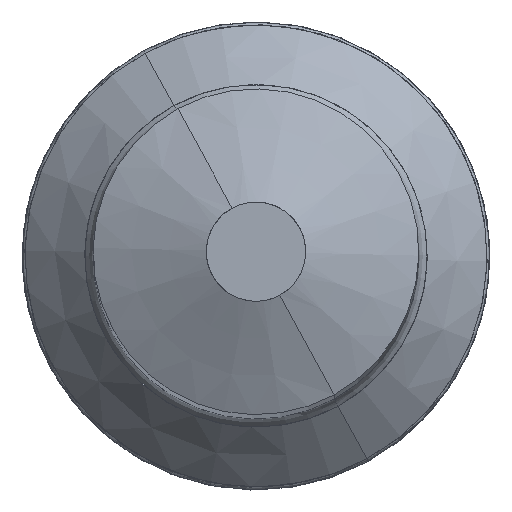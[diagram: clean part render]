
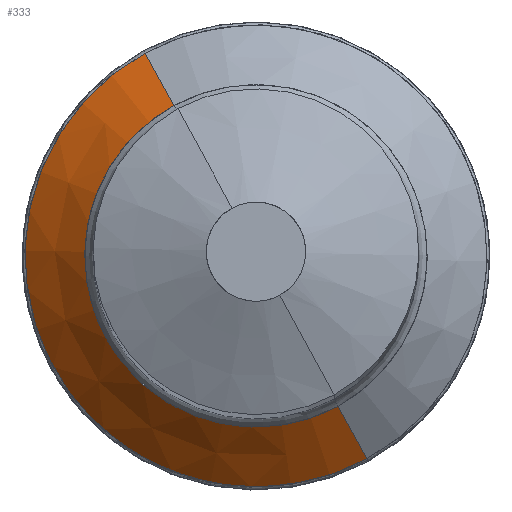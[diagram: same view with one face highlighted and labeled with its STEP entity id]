
A CAD part, top view. The second image highlights one B-rep face of the part: STEP entity #333.
In plain terms, the highlighted conical face has half-angle 45 degrees and reference radius 0 mm.
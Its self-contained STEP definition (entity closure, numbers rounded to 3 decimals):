
#333=ADVANCED_FACE('',(#377),#353,.F.);
#353=CONICAL_SURFACE('',#1028,0.,45.);
#377=FACE_OUTER_BOUND('',#407,.T.);
#407=EDGE_LOOP('',(#566,#567,#568,#569));
#460=B_SPLINE_CURVE_WITH_KNOTS('',3,(#1582,#1583,#1584,#1585),
 .UNSPECIFIED.,.F.,.F.,(4,4),(0.,1.),.UNSPECIFIED.);
#461=B_SPLINE_CURVE_WITH_KNOTS('',3,(#1589,#1590,#1591,#1592),
 .UNSPECIFIED.,.F.,.F.,(4,4),(0.,1.),.UNSPECIFIED.);
#566=ORIENTED_EDGE('',*,*,#814,.T.);
#567=ORIENTED_EDGE('',*,*,#815,.T.);
#568=ORIENTED_EDGE('',*,*,#816,.T.);
#569=ORIENTED_EDGE('',*,*,#817,.T.);
#690=VERTEX_POINT('',#1580);
#691=VERTEX_POINT('',#1581);
#692=VERTEX_POINT('',#1586);
#693=VERTEX_POINT('',#1588);
#814=EDGE_CURVE('',#690,#691,#888,.T.);
#815=EDGE_CURVE('',#691,#692,#460,.T.);
#816=EDGE_CURVE('',#692,#693,#889,.T.);
#817=EDGE_CURVE('',#693,#690,#461,.T.);
#888=CIRCLE('',#1026,17.929);
#889=CIRCLE('',#1027,24.207);
#1026=AXIS2_PLACEMENT_3D('',#1579,#1161,#1162);
#1027=AXIS2_PLACEMENT_3D('',#1587,#1163,#1164);
#1028=AXIS2_PLACEMENT_3D('',#1593,#1165,#1166);
#1161=DIRECTION('',(0.,0.,1.));
#1162=DIRECTION('',(-1.,0.,0.));
#1163=DIRECTION('',(0.,0.,-1.));
#1164=DIRECTION('',(-1.,0.,0.));
#1165=DIRECTION('',(0.,0.,-1.));
#1166=DIRECTION('',(-1.,0.,0.));
#1579=CARTESIAN_POINT('',(0.,0.,11.571));
#1580=CARTESIAN_POINT('',(-8.595,15.734,11.571));
#1581=CARTESIAN_POINT('',(8.595,-15.734,11.571));
#1582=CARTESIAN_POINT('',(8.595,-15.734,11.571));
#1583=CARTESIAN_POINT('',(9.599,-17.571,9.479));
#1584=CARTESIAN_POINT('',(10.602,-19.407,7.386));
#1585=CARTESIAN_POINT('',(11.606,-21.244,5.293));
#1586=CARTESIAN_POINT('',(11.606,-21.244,5.293));
#1587=CARTESIAN_POINT('',(0.,0.,5.293));
#1588=CARTESIAN_POINT('',(-11.606,21.244,5.293));
#1589=CARTESIAN_POINT('',(-11.606,21.244,5.293));
#1590=CARTESIAN_POINT('',(-10.602,19.407,7.386));
#1591=CARTESIAN_POINT('',(-9.599,17.571,9.479));
#1592=CARTESIAN_POINT('',(-8.595,15.734,11.571));
#1593=CARTESIAN_POINT('',(0.,0.,29.5));
